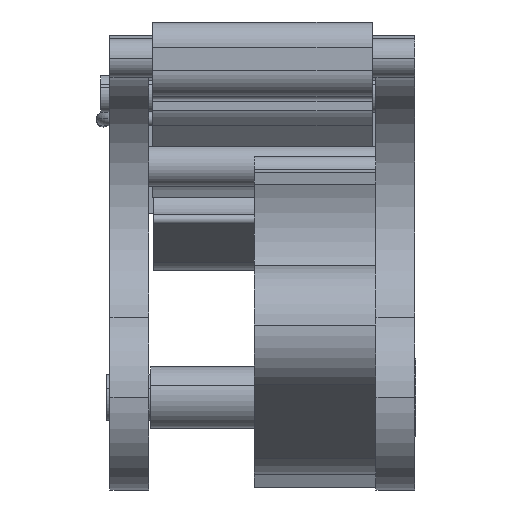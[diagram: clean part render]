
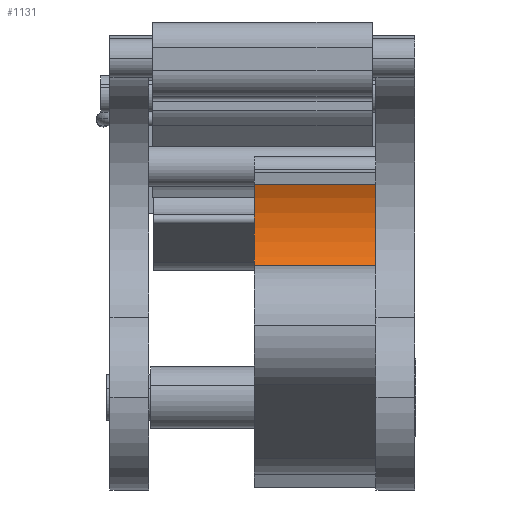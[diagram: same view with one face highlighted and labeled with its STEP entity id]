
A CAD part, top view. The second image highlights one B-rep face of the part: STEP entity #1131.
In plain terms, the highlighted cylindrical face has radius 2.54 mm (diameter 5.08 mm), a partial arc.
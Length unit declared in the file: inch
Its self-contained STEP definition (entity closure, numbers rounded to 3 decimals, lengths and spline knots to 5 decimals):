
#55 = DIRECTION ( 'NONE',  ( 0., 0., -1. ) ) ;
#780 = EDGE_LOOP ( 'NONE', ( #1287, #7815, #4329, #2972 ) ) ;
#790 = LINE ( 'NONE', #2548, #3933 ) ;
#827 = VECTOR ( 'NONE', #2814, 39.37008 ) ;
#971 = CIRCLE ( 'NONE', #6709, 0.1 ) ;
#1131 = ADVANCED_FACE ( 'NONE', ( #3970 ), #5531, .F. ) ;
#1287 = ORIENTED_EDGE ( 'NONE', *, *, #4189, .T. ) ;
#1717 = CARTESIAN_POINT ( 'NONE',  ( -0.0625, 0.21815, 0.01906 ) ) ;
#2510 = VERTEX_POINT ( 'NONE', #3262 ) ;
#2548 = CARTESIAN_POINT ( 'NONE',  ( 0.0625, 0.21815, 0.01906 ) ) ;
#2814 = DIRECTION ( 'NONE',  ( -1., 0., 0. ) ) ;
#2972 = ORIENTED_EDGE ( 'NONE', *, *, #3204, .T. ) ;
#3204 = EDGE_CURVE ( 'NONE', #4057, #5519, #790, .T. ) ;
#3262 = CARTESIAN_POINT ( 'NONE',  ( 0.0625, 0.12954, 0.014 ) ) ;
#3266 = DIRECTION ( 'NONE',  ( 0., 0., 1. ) ) ;
#3899 = DIRECTION ( 'NONE',  ( -1., 0., 0. ) ) ;
#3933 = VECTOR ( 'NONE', #6554, 39.37008 ) ;
#3970 = FACE_OUTER_BOUND ( 'NONE', #780, .T. ) ;
#4057 = VERTEX_POINT ( 'NONE', #6409 ) ;
#4069 = DIRECTION ( 'NONE',  ( -1., 0., 0. ) ) ;
#4189 = EDGE_CURVE ( 'NONE', #5519, #7966, #971, .T. ) ;
#4329 = ORIENTED_EDGE ( 'NONE', *, *, #5127, .F. ) ;
#4518 = CIRCLE ( 'NONE', #8440, 0.1 ) ;
#4584 = DIRECTION ( 'NONE',  ( -1., 0., 0. ) ) ;
#5127 = EDGE_CURVE ( 'NONE', #4057, #2510, #4518, .T. ) ;
#5519 = VERTEX_POINT ( 'NONE', #1717 ) ;
#5531 = CYLINDRICAL_SURFACE ( 'NONE', #7447, 0.1 ) ;
#6409 = CARTESIAN_POINT ( 'NONE',  ( 0.0625, 0.21815, 0.01906 ) ) ;
#6554 = DIRECTION ( 'NONE',  ( -1., 0., 0. ) ) ;
#6709 = AXIS2_PLACEMENT_3D ( 'NONE', #7913, #3899, #8571 ) ;
#7072 = EDGE_CURVE ( 'NONE', #2510, #7966, #7739, .T. ) ;
#7270 = CARTESIAN_POINT ( 'NONE',  ( 0.0625, 0.16873, 0.106 ) ) ;
#7447 = AXIS2_PLACEMENT_3D ( 'NONE', #7270, #4584, #3266 ) ;
#7492 = CARTESIAN_POINT ( 'NONE',  ( 0.0625, 0.12954, 0.014 ) ) ;
#7683 = CARTESIAN_POINT ( 'NONE',  ( -0.0625, 0.12954, 0.014 ) ) ;
#7739 = LINE ( 'NONE', #7492, #827 ) ;
#7815 = ORIENTED_EDGE ( 'NONE', *, *, #7072, .F. ) ;
#7913 = CARTESIAN_POINT ( 'NONE',  ( -0.0625, 0.16873, 0.106 ) ) ;
#7966 = VERTEX_POINT ( 'NONE', #7683 ) ;
#8069 = CARTESIAN_POINT ( 'NONE',  ( 0.0625, 0.16873, 0.106 ) ) ;
#8440 = AXIS2_PLACEMENT_3D ( 'NONE', #8069, #4069, #55 ) ;
#8571 = DIRECTION ( 'NONE',  ( 0., 0., -1. ) ) ;
